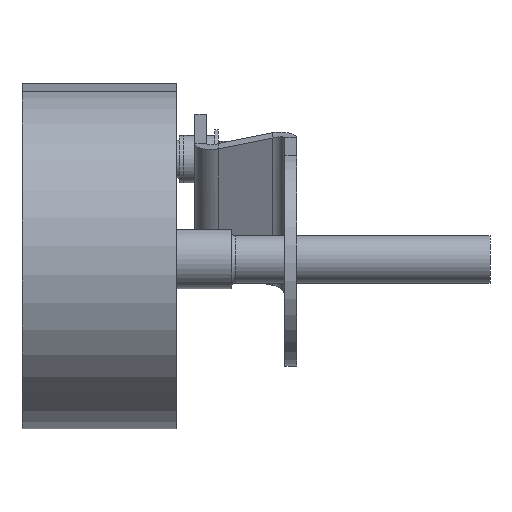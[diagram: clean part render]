
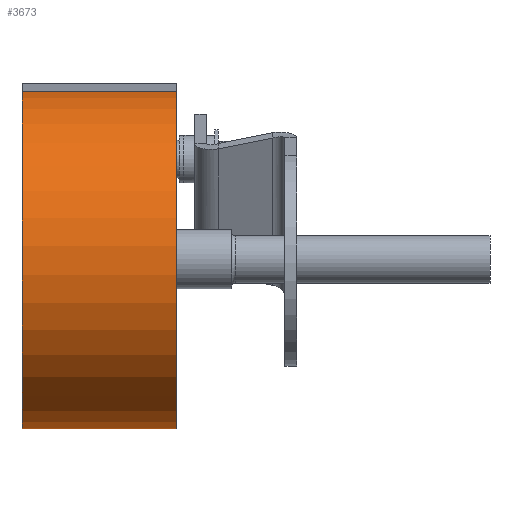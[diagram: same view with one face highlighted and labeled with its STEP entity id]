
A CAD part, left-side view. The second image highlights one B-rep face of the part: STEP entity #3673.
In plain terms, the highlighted cylindrical face has radius 71.5 mm (diameter 143 mm), a partial arc.
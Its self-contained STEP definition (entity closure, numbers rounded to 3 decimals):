
#358=FACE_OUTER_BOUND('',#587,.T.);
#587=EDGE_LOOP('',(#2848,#2849,#2850,#2851));
#859=LINE('',#5845,#1167);
#860=LINE('',#5851,#1168);
#1167=VECTOR('',#4822,10.);
#1168=VECTOR('',#4829,10.);
#1421=CIRCLE('',#4021,71.5);
#1422=CIRCLE('',#4022,71.5);
#1668=VERTEX_POINT('',#5841);
#1669=VERTEX_POINT('',#5843);
#1670=VERTEX_POINT('',#5847);
#1671=VERTEX_POINT('',#5849);
#2094=EDGE_CURVE('',#1668,#1669,#859,.T.);
#2095=EDGE_CURVE('',#1668,#1670,#1421,.T.);
#2096=EDGE_CURVE('',#1671,#1669,#1422,.T.);
#2097=EDGE_CURVE('',#1670,#1671,#860,.T.);
#2848=ORIENTED_EDGE('',*,*,#2095,.F.);
#2849=ORIENTED_EDGE('',*,*,#2094,.T.);
#2850=ORIENTED_EDGE('',*,*,#2096,.F.);
#2851=ORIENTED_EDGE('',*,*,#2097,.F.);
#3305=CYLINDRICAL_SURFACE('',#4020,71.5);
#3673=ADVANCED_FACE('',(#358),#3305,.T.);
#4020=AXIS2_PLACEMENT_3D('',#5846,#4823,#4824);
#4021=AXIS2_PLACEMENT_3D('',#5848,#4825,#4826);
#4022=AXIS2_PLACEMENT_3D('',#5850,#4827,#4828);
#4822=DIRECTION('',(0.,-1.,0.));
#4823=DIRECTION('center_axis',(0.,-1.,0.));
#4824=DIRECTION('ref_axis',(-0.966,0.,-0.259));
#4825=DIRECTION('center_axis',(0.,1.,0.));
#4826=DIRECTION('ref_axis',(0.375,0.,-0.927));
#4827=DIRECTION('center_axis',(0.,-1.,0.));
#4828=DIRECTION('ref_axis',(0.375,0.,-0.927));
#4829=DIRECTION('',(0.,-1.,0.));
#5841=CARTESIAN_POINT('',(-221.216,32.5,-108.494));
#5843=CARTESIAN_POINT('',(-221.216,-32.5,-108.494));
#5845=CARTESIAN_POINT('',(-221.216,32.5,-108.494));
#5846=CARTESIAN_POINT('Origin',(-248.,32.5,-42.2));
#5847=CARTESIAN_POINT('',(-257.951,32.5,28.604));
#5848=CARTESIAN_POINT('Origin',(-248.,32.5,-42.2));
#5849=CARTESIAN_POINT('',(-257.951,-32.5,28.604));
#5850=CARTESIAN_POINT('Origin',(-248.,-32.5,-42.2));
#5851=CARTESIAN_POINT('',(-257.951,32.5,28.604));
